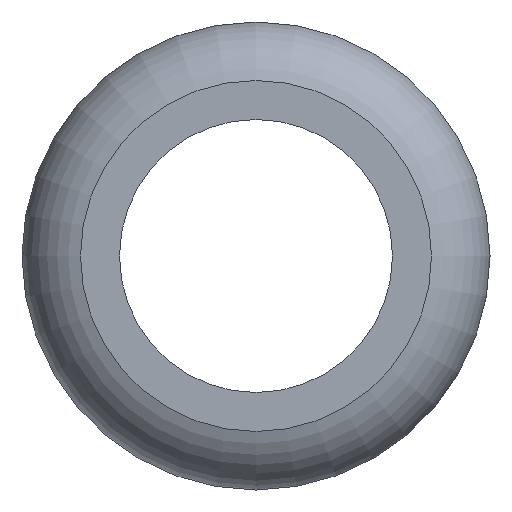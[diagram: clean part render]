
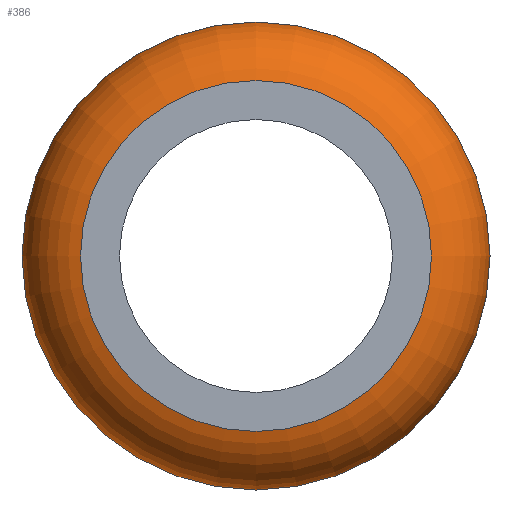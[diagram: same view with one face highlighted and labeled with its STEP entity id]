
A CAD part, front view. The second image highlights one B-rep face of the part: STEP entity #386.
In plain terms, the highlighted toroidal (fillet/blend) face has major radius 4 mm and minor radius 2 mm.
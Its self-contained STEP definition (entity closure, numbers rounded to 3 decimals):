
#70=FACE_OUTER_BOUND('',#93,.T.);
#93=EDGE_LOOP('',(#280,#281,#282,#283,#284));
#126=CIRCLE('',#439,6.);
#127=CIRCLE('',#440,2.);
#128=CIRCLE('',#441,4.5);
#129=CIRCLE('',#442,4.5);
#170=VERTEX_POINT('',#667);
#171=VERTEX_POINT('',#669);
#172=VERTEX_POINT('',#671);
#214=EDGE_CURVE('',#170,#170,#126,.T.);
#215=EDGE_CURVE('',#170,#171,#127,.T.);
#216=EDGE_CURVE('',#172,#171,#128,.T.);
#217=EDGE_CURVE('',#171,#172,#129,.T.);
#280=ORIENTED_EDGE('',*,*,#214,.T.);
#281=ORIENTED_EDGE('',*,*,#215,.T.);
#282=ORIENTED_EDGE('',*,*,#216,.F.);
#283=ORIENTED_EDGE('',*,*,#217,.F.);
#284=ORIENTED_EDGE('',*,*,#215,.F.);
#381=TOROIDAL_SURFACE('',#438,4.,2.);
#386=ADVANCED_FACE('',(#70),#381,.T.);
#438=AXIS2_PLACEMENT_3D('',#666,#521,#522);
#439=AXIS2_PLACEMENT_3D('',#668,#523,#524);
#440=AXIS2_PLACEMENT_3D('',#670,#525,#526);
#441=AXIS2_PLACEMENT_3D('',#672,#527,#528);
#442=AXIS2_PLACEMENT_3D('',#673,#529,#530);
#521=DIRECTION('center_axis',(0.,1.,0.));
#522=DIRECTION('ref_axis',(1.,0.,0.));
#523=DIRECTION('center_axis',(0.,-1.,0.));
#524=DIRECTION('ref_axis',(1.,0.,0.));
#525=DIRECTION('center_axis',(0.,0.,1.));
#526=DIRECTION('ref_axis',(-1.,0.,0.));
#527=DIRECTION('center_axis',(0.,-1.,0.));
#528=DIRECTION('ref_axis',(1.,0.,0.));
#529=DIRECTION('center_axis',(0.,-1.,0.));
#530=DIRECTION('ref_axis',(1.,0.,0.));
#666=CARTESIAN_POINT('Origin',(0.,1.936,0.));
#667=CARTESIAN_POINT('',(-6.,1.936,0.));
#668=CARTESIAN_POINT('Origin',(0.,1.936,0.));
#669=CARTESIAN_POINT('',(-4.5,0.,0.));
#670=CARTESIAN_POINT('Origin',(-4.,1.936,0.));
#671=CARTESIAN_POINT('',(4.5,0.,0.));
#672=CARTESIAN_POINT('Origin',(0.,0.,0.));
#673=CARTESIAN_POINT('Origin',(0.,0.,0.));
